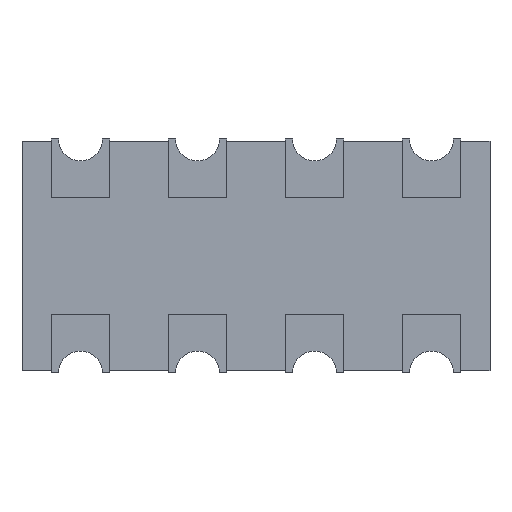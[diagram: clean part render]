
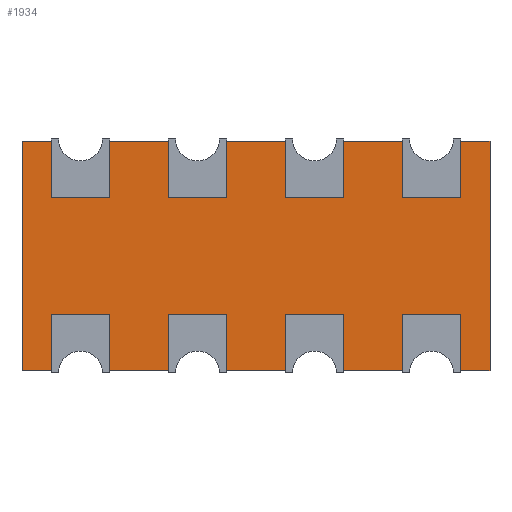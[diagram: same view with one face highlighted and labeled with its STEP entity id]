
A CAD part, front view. The second image highlights one B-rep face of the part: STEP entity #1934.
In plain terms, the highlighted planar face has unit normal (0, -1, 0).
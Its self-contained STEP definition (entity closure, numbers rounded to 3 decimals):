
#23=CIRCLE('',#2034,0.15);
#25=CIRCLE('',#2038,0.15);
#27=CIRCLE('',#2042,0.15);
#29=CIRCLE('',#2046,0.15);
#31=CIRCLE('',#2050,0.15);
#33=CIRCLE('',#2055,0.15);
#35=CIRCLE('',#2059,0.15);
#37=CIRCLE('',#2063,0.15);
#92=FACE_OUTER_BOUND('',#200,.T.);
#200=EDGE_LOOP('',(#1291,#1292,#1293,#1294,#1295,#1296,#1297,#1298,#1299,
#1300,#1301,#1302,#1303,#1304,#1305,#1306,#1307,#1308,#1309,#1310));
#287=LINE('',#2690,#519);
#292=LINE('',#2704,#524);
#296=LINE('',#2716,#528);
#300=LINE('',#2728,#532);
#304=LINE('',#2740,#536);
#309=LINE('',#2755,#541);
#312=LINE('',#2760,#544);
#316=LINE('',#2772,#548);
#320=LINE('',#2784,#552);
#324=LINE('',#2796,#556);
#326=LINE('',#2800,#558);
#329=LINE('',#2805,#561);
#519=VECTOR('',#2176,0.25);
#524=VECTOR('',#2189,0.5);
#528=VECTOR('',#2201,0.5);
#532=VECTOR('',#2213,0.5);
#536=VECTOR('',#2225,0.25);
#541=VECTOR('',#2238,1.572);
#544=VECTOR('',#2243,0.25);
#548=VECTOR('',#2255,0.5);
#552=VECTOR('',#2267,0.5);
#556=VECTOR('',#2279,0.5);
#558=VECTOR('',#2283,0.25);
#561=VECTOR('',#2288,1.572);
#751=VERTEX_POINT('',#2688);
#752=VERTEX_POINT('',#2689);
#755=VERTEX_POINT('',#2697);
#757=VERTEX_POINT('',#2703);
#759=VERTEX_POINT('',#2709);
#761=VERTEX_POINT('',#2715);
#763=VERTEX_POINT('',#2721);
#765=VERTEX_POINT('',#2727);
#767=VERTEX_POINT('',#2733);
#769=VERTEX_POINT('',#2739);
#771=VERTEX_POINT('',#2745);
#772=VERTEX_POINT('',#2746);
#775=VERTEX_POINT('',#2754);
#777=VERTEX_POINT('',#2763);
#778=VERTEX_POINT('',#2764);
#781=VERTEX_POINT('',#2775);
#782=VERTEX_POINT('',#2776);
#785=VERTEX_POINT('',#2787);
#786=VERTEX_POINT('',#2788);
#789=VERTEX_POINT('',#2799);
#927=EDGE_CURVE('',#751,#752,#287,.T.);
#931=EDGE_CURVE('',#755,#751,#23,.T.);
#934=EDGE_CURVE('',#757,#755,#292,.T.);
#937=EDGE_CURVE('',#759,#757,#25,.T.);
#940=EDGE_CURVE('',#761,#759,#296,.T.);
#943=EDGE_CURVE('',#763,#761,#27,.T.);
#946=EDGE_CURVE('',#765,#763,#300,.T.);
#949=EDGE_CURVE('',#767,#765,#29,.T.);
#952=EDGE_CURVE('',#769,#767,#304,.T.);
#955=EDGE_CURVE('',#771,#772,#31,.T.);
#959=EDGE_CURVE('',#752,#775,#309,.T.);
#962=EDGE_CURVE('',#775,#771,#312,.T.);
#964=EDGE_CURVE('',#777,#778,#33,.T.);
#968=EDGE_CURVE('',#772,#777,#316,.T.);
#970=EDGE_CURVE('',#781,#782,#35,.T.);
#974=EDGE_CURVE('',#778,#781,#320,.T.);
#976=EDGE_CURVE('',#785,#786,#37,.T.);
#980=EDGE_CURVE('',#782,#785,#324,.T.);
#982=EDGE_CURVE('',#786,#789,#326,.T.);
#985=EDGE_CURVE('',#789,#769,#329,.T.);
#1291=ORIENTED_EDGE('',*,*,#985,.F.);
#1292=ORIENTED_EDGE('',*,*,#982,.F.);
#1293=ORIENTED_EDGE('',*,*,#976,.F.);
#1294=ORIENTED_EDGE('',*,*,#980,.F.);
#1295=ORIENTED_EDGE('',*,*,#970,.F.);
#1296=ORIENTED_EDGE('',*,*,#974,.F.);
#1297=ORIENTED_EDGE('',*,*,#964,.F.);
#1298=ORIENTED_EDGE('',*,*,#968,.F.);
#1299=ORIENTED_EDGE('',*,*,#955,.F.);
#1300=ORIENTED_EDGE('',*,*,#962,.F.);
#1301=ORIENTED_EDGE('',*,*,#959,.F.);
#1302=ORIENTED_EDGE('',*,*,#927,.F.);
#1303=ORIENTED_EDGE('',*,*,#931,.F.);
#1304=ORIENTED_EDGE('',*,*,#934,.F.);
#1305=ORIENTED_EDGE('',*,*,#937,.F.);
#1306=ORIENTED_EDGE('',*,*,#940,.F.);
#1307=ORIENTED_EDGE('',*,*,#943,.F.);
#1308=ORIENTED_EDGE('',*,*,#946,.F.);
#1309=ORIENTED_EDGE('',*,*,#949,.F.);
#1310=ORIENTED_EDGE('',*,*,#952,.F.);
#1732=PLANE('',#2069);
#1934=ADVANCED_FACE('',(#92),#1732,.F.);
#2034=AXIS2_PLACEMENT_3D('',#2698,#2182,#2183);
#2038=AXIS2_PLACEMENT_3D('',#2710,#2194,#2195);
#2042=AXIS2_PLACEMENT_3D('',#2722,#2206,#2207);
#2046=AXIS2_PLACEMENT_3D('',#2734,#2218,#2219);
#2050=AXIS2_PLACEMENT_3D('',#2747,#2230,#2231);
#2055=AXIS2_PLACEMENT_3D('',#2765,#2247,#2248);
#2059=AXIS2_PLACEMENT_3D('',#2777,#2259,#2260);
#2063=AXIS2_PLACEMENT_3D('',#2789,#2271,#2272);
#2069=AXIS2_PLACEMENT_3D('',#2808,#2292,#2293);
#2176=DIRECTION('',(1.,0.,0.));
#2182=DIRECTION('center_axis',(0.,-1.,0.));
#2183=DIRECTION('ref_axis',(-1.,0.,0.));
#2189=DIRECTION('',(1.,0.,0.));
#2194=DIRECTION('center_axis',(0.,-1.,0.));
#2195=DIRECTION('ref_axis',(-1.,0.,0.));
#2201=DIRECTION('',(1.,0.,0.));
#2206=DIRECTION('center_axis',(0.,-1.,0.));
#2207=DIRECTION('ref_axis',(-1.,0.,0.));
#2213=DIRECTION('',(1.,0.,0.));
#2218=DIRECTION('center_axis',(0.,-1.,0.));
#2219=DIRECTION('ref_axis',(-1.,0.,0.));
#2225=DIRECTION('',(1.,0.,0.));
#2230=DIRECTION('center_axis',(0.,-1.,0.));
#2231=DIRECTION('ref_axis',(1.,0.,0.));
#2238=DIRECTION('',(0.,0.,-1.));
#2243=DIRECTION('',(-1.,0.,0.));
#2247=DIRECTION('center_axis',(0.,-1.,0.));
#2248=DIRECTION('ref_axis',(1.,0.,0.));
#2255=DIRECTION('',(-1.,0.,0.));
#2259=DIRECTION('center_axis',(0.,-1.,0.));
#2260=DIRECTION('ref_axis',(1.,0.,0.));
#2267=DIRECTION('',(-1.,0.,0.));
#2271=DIRECTION('center_axis',(0.,-1.,0.));
#2272=DIRECTION('ref_axis',(1.,0.,0.));
#2279=DIRECTION('',(-1.,0.,0.));
#2283=DIRECTION('',(-1.,0.,0.));
#2288=DIRECTION('',(0.,0.,1.));
#2292=DIRECTION('center_axis',(0.,1.,0.));
#2293=DIRECTION('ref_axis',(0.,0.,1.));
#2688=CARTESIAN_POINT('',(2.95,0.,1.572));
#2689=CARTESIAN_POINT('',(3.2,0.,1.572));
#2690=CARTESIAN_POINT('',(2.95,0.,1.572));
#2697=CARTESIAN_POINT('',(2.65,0.,1.572));
#2698=CARTESIAN_POINT('Origin',(2.8,0.,1.572));
#2703=CARTESIAN_POINT('',(2.15,0.,1.572));
#2704=CARTESIAN_POINT('',(2.15,0.,1.572));
#2709=CARTESIAN_POINT('',(1.85,0.,1.572));
#2710=CARTESIAN_POINT('Origin',(2.,0.,1.572));
#2715=CARTESIAN_POINT('',(1.35,0.,1.572));
#2716=CARTESIAN_POINT('',(1.35,0.,1.572));
#2721=CARTESIAN_POINT('',(1.05,0.,1.572));
#2722=CARTESIAN_POINT('Origin',(1.2,0.,1.572));
#2727=CARTESIAN_POINT('',(0.55,0.,1.572));
#2728=CARTESIAN_POINT('',(0.55,0.,1.572));
#2733=CARTESIAN_POINT('',(0.25,0.,1.572));
#2734=CARTESIAN_POINT('Origin',(0.4,0.,1.572));
#2739=CARTESIAN_POINT('',(0.,0.,1.572));
#2740=CARTESIAN_POINT('',(0.,0.,1.572));
#2745=CARTESIAN_POINT('',(2.95,0.,0.));
#2746=CARTESIAN_POINT('',(2.65,0.,0.));
#2747=CARTESIAN_POINT('Origin',(2.8,0.,0.));
#2754=CARTESIAN_POINT('',(3.2,0.,0.));
#2755=CARTESIAN_POINT('',(3.2,0.,1.572));
#2760=CARTESIAN_POINT('',(3.2,0.,0.));
#2763=CARTESIAN_POINT('',(2.15,0.,0.));
#2764=CARTESIAN_POINT('',(1.85,0.,0.));
#2765=CARTESIAN_POINT('Origin',(2.,0.,0.));
#2772=CARTESIAN_POINT('',(2.65,0.,0.));
#2775=CARTESIAN_POINT('',(1.35,0.,0.));
#2776=CARTESIAN_POINT('',(1.05,0.,0.));
#2777=CARTESIAN_POINT('Origin',(1.2,0.,0.));
#2784=CARTESIAN_POINT('',(1.85,0.,0.));
#2787=CARTESIAN_POINT('',(0.55,0.,0.));
#2788=CARTESIAN_POINT('',(0.25,0.,0.));
#2789=CARTESIAN_POINT('Origin',(0.4,0.,0.));
#2796=CARTESIAN_POINT('',(1.05,0.,0.));
#2799=CARTESIAN_POINT('',(0.,0.,0.));
#2800=CARTESIAN_POINT('',(0.25,0.,0.));
#2805=CARTESIAN_POINT('',(0.,0.,0.));
#2808=CARTESIAN_POINT('Origin',(0.1,0.,0.143));
